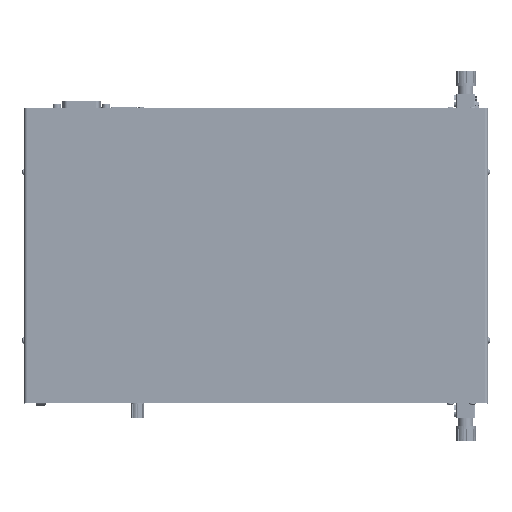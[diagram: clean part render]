
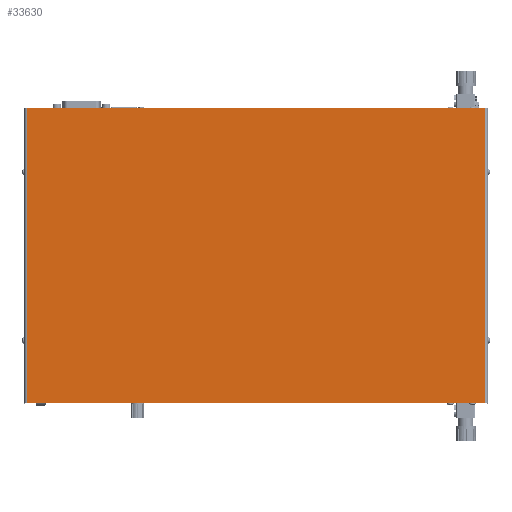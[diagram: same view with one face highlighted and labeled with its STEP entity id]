
A CAD part, top view. The second image highlights one B-rep face of the part: STEP entity #33630.
In plain terms, the highlighted planar face has unit normal (0, 0, 1).
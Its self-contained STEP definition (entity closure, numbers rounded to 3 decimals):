
#33630=ADVANCED_FACE('',(#69001),#69002,.T.);
#69001=FACE_OUTER_BOUND('',#117265,.T.);
#69002=PLANE('',#117266);
#117265=EDGE_LOOP('',(#218778,#218779,#218780,#218781));
#117266=AXIS2_PLACEMENT_3D('',#218782,#218783,#218784);
#218778=ORIENTED_EDGE('',*,*,#262570,.F.);
#218779=ORIENTED_EDGE('',*,*,#262240,.T.);
#218780=ORIENTED_EDGE('',*,*,#262572,.T.);
#218781=ORIENTED_EDGE('',*,*,#262347,.F.);
#218782=CARTESIAN_POINT('',(333.282,315.969,100.184));
#218783=DIRECTION('',(0.,0.,1.0));
#218784=DIRECTION('',(-1.0,0.,0.));
#262240=EDGE_CURVE('',#321758,#321756,#321759,.T.);
#262347=EDGE_CURVE('',#321868,#321863,#321870,.T.);
#262570=EDGE_CURVE('',#321758,#321868,#322197,.T.);
#262572=EDGE_CURVE('',#321756,#321863,#322199,.T.);
#321756=VERTEX_POINT('',#407394);
#321758=VERTEX_POINT('',#407396);
#321759=LINE('',#407397,#407398);
#321863=VERTEX_POINT('',#407551);
#321868=VERTEX_POINT('',#407557);
#321870=LINE('',#407559,#407560);
#322197=LINE('',#408042,#408043);
#322199=LINE('',#408045,#408046);
#407394=CARTESIAN_POINT('',(5.032,35.969,100.184));
#407396=CARTESIAN_POINT('',(5.032,315.969,100.184));
#407397=CARTESIAN_POINT('',(5.032,315.969,100.184));
#407398=VECTOR('',#454168,1.0);
#407551=CARTESIAN_POINT('',(439.033,35.969,100.184));
#407557=CARTESIAN_POINT('',(439.033,315.969,100.184));
#407559=CARTESIAN_POINT('',(439.033,315.969,100.184));
#407560=VECTOR('',#454228,1.0);
#408042=CARTESIAN_POINT('',(227.532,315.969,100.184));
#408043=VECTOR('',#454414,1.0);
#408045=CARTESIAN_POINT('',(227.532,35.969,100.184));
#408046=VECTOR('',#454415,1.0);
#454168=DIRECTION('',(0.0,-1.0,0.0));
#454228=DIRECTION('',(0.0,-1.0,0.0));
#454414=DIRECTION('',(1.0,0.0,0.0));
#454415=DIRECTION('',(1.0,0.0,0.0));
